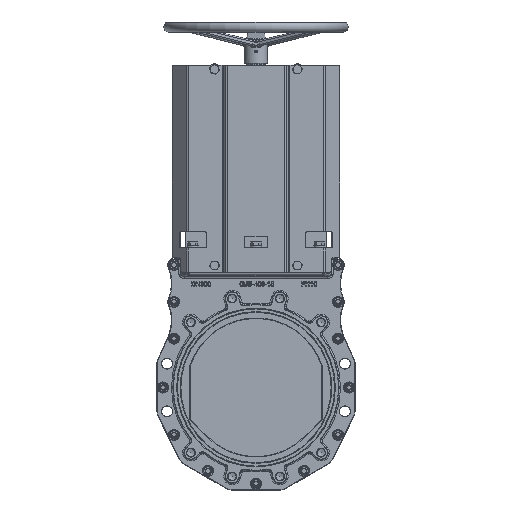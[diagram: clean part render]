
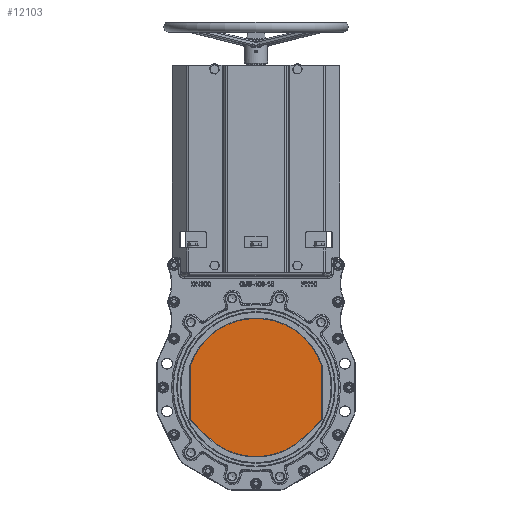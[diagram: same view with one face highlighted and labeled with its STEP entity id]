
A CAD part, top view. The second image highlights one B-rep face of the part: STEP entity #12103.
In plain terms, the highlighted planar face has unit normal (0, 0, 1).
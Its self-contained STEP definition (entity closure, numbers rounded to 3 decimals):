
#1681=PLANE('',#53839);
#5047=LINE('',#73121,#8143);
#5051=LINE('',#73133,#8147);
#5055=LINE('',#73145,#8151);
#5058=LINE('',#73154,#8154);
#8143=VECTOR('',#58655,1.);
#8147=VECTOR('',#58667,1.);
#8151=VECTOR('',#58679,1.);
#8154=VECTOR('',#58690,1.);
#12103=ADVANCED_FACE('',(#15465),#1681,.T.);
#15465=FACE_OUTER_BOUND('',#18408,.T.);
#18408=EDGE_LOOP('',(#28406,#28407,#28408,#28409,#28410,#28411,#28412,#28413,
#28414,#28415));
#28406=ORIENTED_EDGE('',*,*,#43799,.F.);
#28407=ORIENTED_EDGE('',*,*,#43802,.F.);
#28408=ORIENTED_EDGE('',*,*,#43804,.F.);
#28409=ORIENTED_EDGE('',*,*,#43807,.F.);
#28410=ORIENTED_EDGE('',*,*,#43810,.F.);
#28411=ORIENTED_EDGE('',*,*,#43813,.F.);
#28412=ORIENTED_EDGE('',*,*,#43816,.F.);
#28413=ORIENTED_EDGE('',*,*,#43819,.F.);
#28414=ORIENTED_EDGE('',*,*,#43822,.F.);
#28415=ORIENTED_EDGE('',*,*,#43824,.F.);
#38882=VERTEX_POINT('',#73103);
#38883=VERTEX_POINT('',#73105);
#38884=VERTEX_POINT('',#73109);
#38886=VERTEX_POINT('',#73114);
#38887=VERTEX_POINT('',#73119);
#38890=VERTEX_POINT('',#73126);
#38892=VERTEX_POINT('',#73132);
#38894=VERTEX_POINT('',#73138);
#38895=VERTEX_POINT('',#73143);
#38898=VERTEX_POINT('',#73150);
#43799=EDGE_CURVE('',#38882,#38883,#50508,.T.);
#43802=EDGE_CURVE('',#38884,#38882,#50509,.T.);
#43804=EDGE_CURVE('',#38886,#38884,#50510,.T.);
#43807=EDGE_CURVE('',#38887,#38886,#5047,.T.);
#43810=EDGE_CURVE('',#38890,#38887,#50512,.T.);
#43813=EDGE_CURVE('',#38892,#38890,#5051,.T.);
#43816=EDGE_CURVE('',#38894,#38892,#50514,.T.);
#43819=EDGE_CURVE('',#38895,#38894,#5055,.T.);
#43822=EDGE_CURVE('',#38898,#38895,#50516,.T.);
#43824=EDGE_CURVE('',#38883,#38898,#5058,.T.);
#50508=CIRCLE('',#52883,10.);
#50509=CIRCLE('',#52885,150.);
#50510=CIRCLE('',#52887,10.);
#50512=CIRCLE('',#52891,10.);
#50514=CIRCLE('',#52895,150.);
#50516=CIRCLE('',#52899,10.);
#52883=AXIS2_PLACEMENT_3D('',#73104,#58637,#58638);
#52885=AXIS2_PLACEMENT_3D('',#73110,#58643,#58644);
#52887=AXIS2_PLACEMENT_3D('',#73115,#58648,#58649);
#52891=AXIS2_PLACEMENT_3D('',#73127,#58660,#58661);
#52895=AXIS2_PLACEMENT_3D('',#73139,#58672,#58673);
#52899=AXIS2_PLACEMENT_3D('',#73151,#58684,#58685);
#53839=AXIS2_PLACEMENT_3D('',#79833,#61423,#61424);
#58637=DIRECTION('',(0.,0.,-1.));
#58638=DIRECTION('',(1.,0.,0.));
#58643=DIRECTION('',(0.,0.,-1.));
#58644=DIRECTION('',(1.,0.,0.));
#58648=DIRECTION('',(0.,0.,-1.));
#58649=DIRECTION('',(1.,0.,0.));
#58655=DIRECTION('',(0.,1.,0.));
#58660=DIRECTION('',(0.,0.,-1.));
#58661=DIRECTION('',(1.,0.,0.));
#58667=DIRECTION('',(-0.707,0.707,0.));
#58672=DIRECTION('',(0.,0.,-1.));
#58673=DIRECTION('',(1.,0.,0.));
#58679=DIRECTION('',(-0.707,-0.707,0.));
#58684=DIRECTION('',(0.,0.,-1.));
#58685=DIRECTION('',(1.,0.,0.));
#58690=DIRECTION('',(0.,-1.,0.));
#61423=DIRECTION('',(0.,0.,1.));
#61424=DIRECTION('',(1.,0.,0.));
#73103=CARTESIAN_POINT('',(142.5,46.837,6.));
#73104=CARTESIAN_POINT('',(133.,43.715,6.));
#73105=CARTESIAN_POINT('',(143.,43.715,6.));
#73109=CARTESIAN_POINT('',(-142.5,46.837,6.));
#73110=CARTESIAN_POINT('',(0.,0.,6.));
#73114=CARTESIAN_POINT('',(-143.,43.715,6.));
#73115=CARTESIAN_POINT('',(-133.,43.715,6.));
#73119=CARTESIAN_POINT('',(-143.,-64.99,6.));
#73121=CARTESIAN_POINT('',(-143.,45.288,6.));
#73126=CARTESIAN_POINT('',(-140.071,-72.061,6.));
#73127=CARTESIAN_POINT('',(-133.,-64.99,6.));
#73132=CARTESIAN_POINT('',(-106.066,-106.066,6.));
#73133=CARTESIAN_POINT('',(-143.,-69.132,6.));
#73138=CARTESIAN_POINT('',(106.066,-106.066,6.));
#73139=CARTESIAN_POINT('',(0.,0.,6.));
#73143=CARTESIAN_POINT('',(140.071,-72.061,6.));
#73145=CARTESIAN_POINT('',(106.066,-106.066,6.));
#73150=CARTESIAN_POINT('',(143.,-64.99,6.));
#73151=CARTESIAN_POINT('',(133.,-64.99,6.));
#73154=CARTESIAN_POINT('',(143.,-69.132,6.));
#79833=CARTESIAN_POINT('',(0.,131.073,6.));
